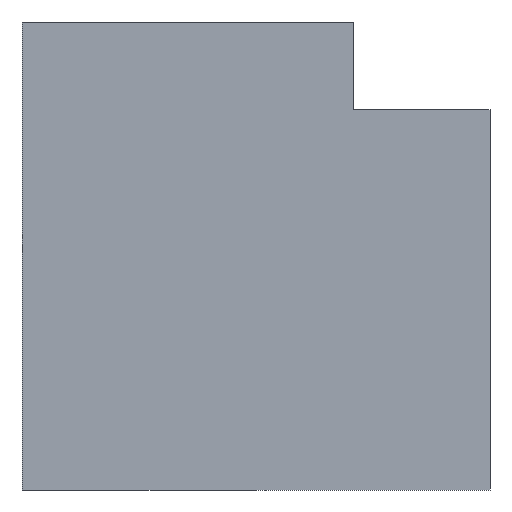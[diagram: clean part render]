
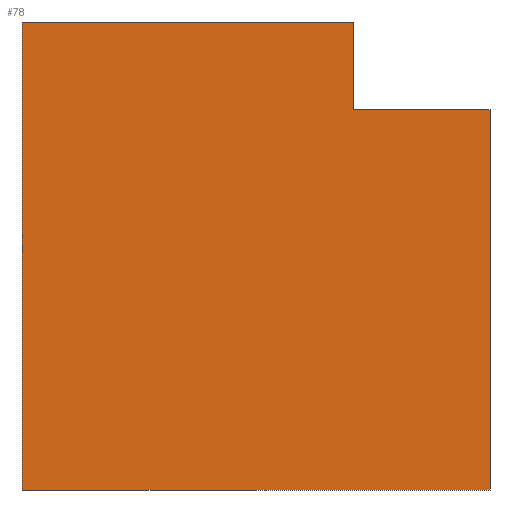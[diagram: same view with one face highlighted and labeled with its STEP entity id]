
A CAD part, left-side view. The second image highlights one B-rep face of the part: STEP entity #78.
In plain terms, the highlighted planar face has unit normal (-1, 0, 0).
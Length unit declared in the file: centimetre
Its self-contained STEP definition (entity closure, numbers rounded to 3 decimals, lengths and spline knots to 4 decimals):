
#5 = DIRECTION ( 'NONE',  ( 0., -1., 0. ) ) ;
#19 = CARTESIAN_POINT ( 'NONE',  ( 0., 1000., 1000. ) ) ;
#26 = ORIENTED_EDGE ( 'NONE', *, *, #619, .T. ) ;
#36 = DIRECTION ( 'NONE',  ( 0., 0., 1. ) ) ;
#51 = CARTESIAN_POINT ( 'NONE',  ( 0., 0., 812.3001 ) ) ;
#72 = DIRECTION ( 'NONE',  ( 0., 0., -1. ) ) ;
#78 = ADVANCED_FACE ( 'NONE', ( #132 ), #449, .F. ) ;
#98 = LINE ( 'NONE', #51, #538 ) ;
#114 = CARTESIAN_POINT ( 'NONE',  ( 0., 1000., 1000. ) ) ;
#125 = VERTEX_POINT ( 'NONE', #336 ) ;
#127 = VECTOR ( 'NONE', #5, 100. ) ;
#132 = FACE_OUTER_BOUND ( 'NONE', #562, .T. ) ;
#146 = CARTESIAN_POINT ( 'NONE',  ( 0., 290.9153, 812.3001 ) ) ;
#186 = CARTESIAN_POINT ( 'NONE',  ( 0., 290.9153, 1000. ) ) ;
#188 = VECTOR ( 'NONE', #370, 100. ) ;
#191 = ORIENTED_EDGE ( 'NONE', *, *, #495, .T. ) ;
#192 = CARTESIAN_POINT ( 'NONE',  ( 0., 290.9153, 812.3001 ) ) ;
#204 = ORIENTED_EDGE ( 'NONE', *, *, #677, .T. ) ;
#208 = LINE ( 'NONE', #114, #127 ) ;
#226 = CARTESIAN_POINT ( 'NONE',  ( 0., 1000., 1000. ) ) ;
#244 = DIRECTION ( 'NONE',  ( 0., -1., 0. ) ) ;
#258 = LINE ( 'NONE', #266, #188 ) ;
#266 = CARTESIAN_POINT ( 'NONE',  ( 0., 0., 1000. ) ) ;
#269 = VERTEX_POINT ( 'NONE', #146 ) ;
#270 = VECTOR ( 'NONE', #72, 100. ) ;
#276 = VECTOR ( 'NONE', #36, 100. ) ;
#278 = DIRECTION ( 'NONE',  ( 1., 0., 0. ) ) ;
#308 = CARTESIAN_POINT ( 'NONE',  ( 0., 1000., 0. ) ) ;
#336 = CARTESIAN_POINT ( 'NONE',  ( 0., 0., 0. ) ) ;
#345 = EDGE_CURVE ( 'NONE', #633, #269, #98, .T. ) ;
#350 = VECTOR ( 'NONE', #244, 100. ) ;
#362 = LINE ( 'NONE', #192, #276 ) ;
#370 = DIRECTION ( 'NONE',  ( 0., 0., -1. ) ) ;
#384 = DIRECTION ( 'NONE',  ( 0., 1., 0. ) ) ;
#421 = VERTEX_POINT ( 'NONE', #480 ) ;
#437 = EDGE_CURVE ( 'NONE', #469, #615, #208, .T. ) ;
#444 = EDGE_CURVE ( 'NONE', #633, #125, #258, .T. ) ;
#449 = PLANE ( 'NONE',  #682 ) ;
#469 = VERTEX_POINT ( 'NONE', #642 ) ;
#480 = CARTESIAN_POINT ( 'NONE',  ( 0., 1000., 0. ) ) ;
#493 = LINE ( 'NONE', #226, #270 ) ;
#495 = EDGE_CURVE ( 'NONE', #269, #615, #362, .T. ) ;
#501 = CARTESIAN_POINT ( 'NONE',  ( 0., 0., 812.3001 ) ) ;
#538 = VECTOR ( 'NONE', #384, 100. ) ;
#562 = EDGE_LOOP ( 'NONE', ( #652, #643, #191, #579, #26, #204 ) ) ;
#565 = LINE ( 'NONE', #308, #350 ) ;
#579 = ORIENTED_EDGE ( 'NONE', *, *, #437, .F. ) ;
#613 = DIRECTION ( 'NONE',  ( 0., 0., -1. ) ) ;
#615 = VERTEX_POINT ( 'NONE', #186 ) ;
#619 = EDGE_CURVE ( 'NONE', #469, #421, #493, .T. ) ;
#633 = VERTEX_POINT ( 'NONE', #501 ) ;
#642 = CARTESIAN_POINT ( 'NONE',  ( 0., 1000., 1000. ) ) ;
#643 = ORIENTED_EDGE ( 'NONE', *, *, #345, .T. ) ;
#652 = ORIENTED_EDGE ( 'NONE', *, *, #444, .F. ) ;
#677 = EDGE_CURVE ( 'NONE', #421, #125, #565, .T. ) ;
#682 = AXIS2_PLACEMENT_3D ( 'NONE', #19, #278, #613 ) ;
